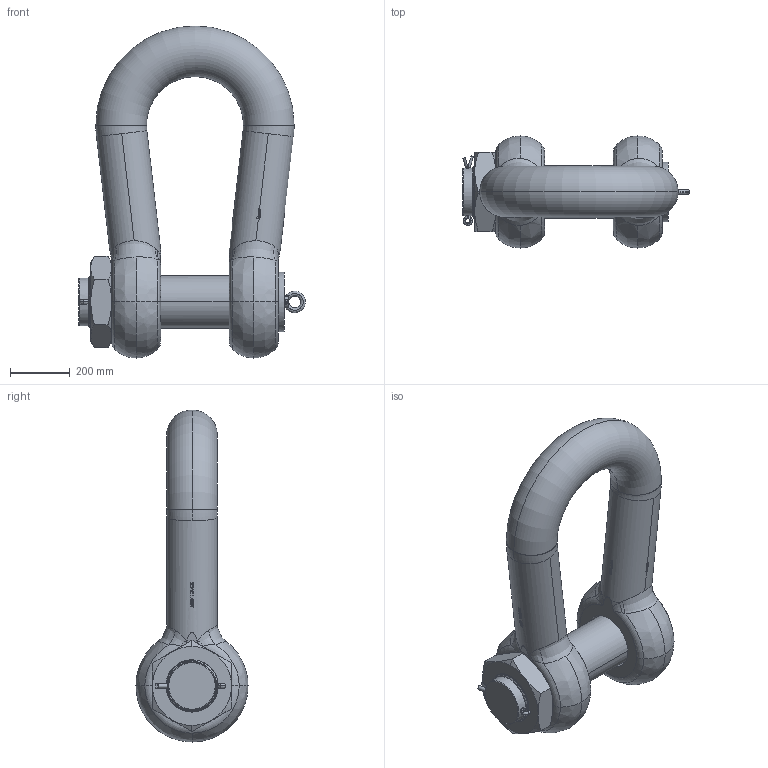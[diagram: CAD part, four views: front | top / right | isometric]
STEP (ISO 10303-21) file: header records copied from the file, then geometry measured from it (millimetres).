
FILE_DESCRIPTION(('STEP AP214'),'1');
FILE_NAME('hdgphm0400.stp','2017-06-30T09:25:08',('TraceParts'),('TraceParts S.A.'),'Spatial InterOp 3D',' ',' ');
FILE_SCHEMA(('automotive_design'));
Length unit declared in the file: millimetre
Products named in the file (5): HDGPHM0400|HDGPHM0400_1#HDGPHM0400_1;MANIFOLD_SOLID_BREP #20413; HDGPHM0400|HDGPHM0400_1#HDGPHM0400_2;MANIFOLD_SOLID_BREP #38690; hdgphm0400_3; hdgphm0400_4; hdgphm0400_5
Bounding box: 761 x 376 x 1113.49 mm (x, y, z)
Volume: 78945453.9 mm3; surface area: 2306640.1 mm2
Topology: 5 solids, 5 shells, 1238 faces, 4991 edges, 3812 vertices
Faces by surface type: bspline 438, plane 406, cylinder 332, torus 36, cone 26
Entity records: 100754 total; most frequent: CARTESIAN_POINT 57069, ORIENTED_EDGE 9978, EDGE_CURVE 4989, VERTEX_POINT 3812, B_SPLINE_CURVE_WITH_KNOTS 3702, DIRECTION 2947, EDGE_LOOP 1299, STYLED_ITEM 1243
